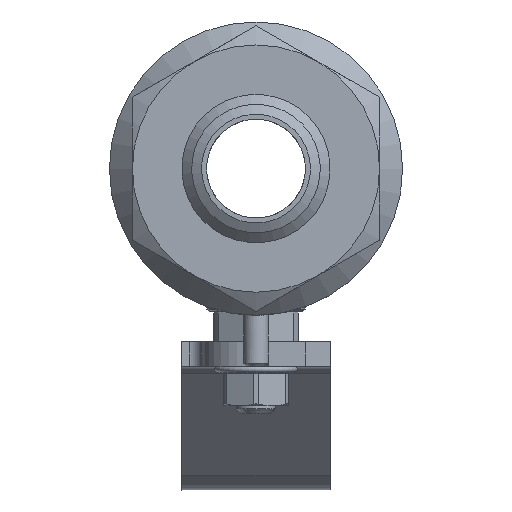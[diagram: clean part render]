
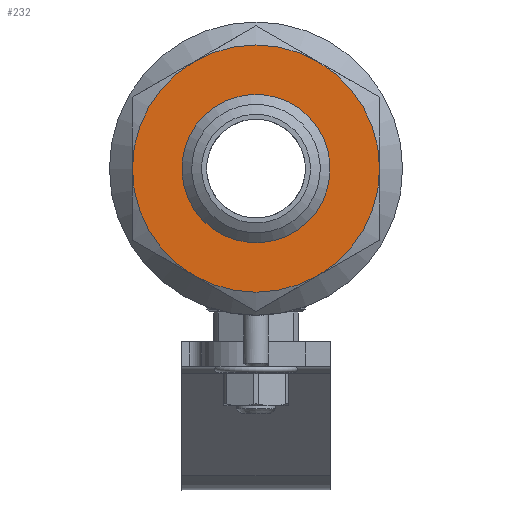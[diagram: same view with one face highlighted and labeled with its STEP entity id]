
A CAD part, left-side view. The second image highlights one B-rep face of the part: STEP entity #232.
In plain terms, the highlighted planar face has unit normal (-1, 0, 0).
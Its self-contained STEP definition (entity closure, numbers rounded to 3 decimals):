
#232=ADVANCED_FACE('',(#2179,#2181),#2183,.T.);
#2179=FACE_BOUND('',#2180,.T.);
#2180=EDGE_LOOP('',(#3575));
#2181=FACE_OUTER_BOUND('',#2182,.T.);
#2182=EDGE_LOOP('',(#3576,#3577,#3578,#3579,#3580,#3581));
#2183=PLANE('',#2184);
#2184=AXIS2_PLACEMENT_3D('',#2185,#2186,#2187);
#2185=CARTESIAN_POINT('',(-75.9,0.,0.));
#2186=DIRECTION('',(-1.,0.,0.));
#2187=DIRECTION('',(0.,0.866,0.5));
#3575=ORIENTED_EDGE('',*,*,#4800,.F.);
#3576=ORIENTED_EDGE('',*,*,#4814,.F.);
#3577=ORIENTED_EDGE('',*,*,#4815,.F.);
#3578=ORIENTED_EDGE('',*,*,#4816,.F.);
#3579=ORIENTED_EDGE('',*,*,#4817,.F.);
#3580=ORIENTED_EDGE('',*,*,#4818,.F.);
#3581=ORIENTED_EDGE('',*,*,#4819,.F.);
#4800=EDGE_CURVE('',#5487,#5487,#5488,.F.);
#4814=EDGE_CURVE('',#5513,#5514,#5515,.T.);
#4815=EDGE_CURVE('',#5516,#5513,#5517,.T.);
#4816=EDGE_CURVE('',#5518,#5516,#5519,.T.);
#4817=EDGE_CURVE('',#5520,#5518,#5521,.T.);
#4818=EDGE_CURVE('',#5522,#5520,#5523,.T.);
#4819=EDGE_CURVE('',#5514,#5522,#5524,.T.);
#5487=VERTEX_POINT('',#8706);
#5488=CIRCLE('',#8707,15.);
#5513=VERTEX_POINT('',#8765);
#5514=VERTEX_POINT('',#8766);
#5515=CIRCLE('',#8767,25.);
#5516=VERTEX_POINT('',#8771);
#5517=CIRCLE('',#8772,25.);
#5518=VERTEX_POINT('',#8776);
#5519=CIRCLE('',#8777,25.);
#5520=VERTEX_POINT('',#8781);
#5521=CIRCLE('',#8782,25.);
#5522=VERTEX_POINT('',#8786);
#5523=CIRCLE('',#8787,25.);
#5524=CIRCLE('',#8791,25.);
#8706=CARTESIAN_POINT('',(-75.9,1.061,14.962));
#8707=AXIS2_PLACEMENT_3D('',#8708,#8709,#8710);
#8708=CARTESIAN_POINT('',(-75.9,0.,0.));
#8709=DIRECTION('',(1.,0.,0.));
#8710=DIRECTION('',(0.,0.071,0.997));
#8765=CARTESIAN_POINT('',(-75.9,12.5,-21.651));
#8766=CARTESIAN_POINT('',(-75.9,25.,0.));
#8767=AXIS2_PLACEMENT_3D('',#8768,#8769,#8770);
#8768=CARTESIAN_POINT('',(-75.9,0.,0.));
#8769=DIRECTION('',(1.,0.,0.));
#8770=DIRECTION('',(0.,0.5,-0.866));
#8771=CARTESIAN_POINT('',(-75.9,-12.5,-21.651));
#8772=AXIS2_PLACEMENT_3D('',#8773,#8774,#8775);
#8773=CARTESIAN_POINT('',(-75.9,0.,0.));
#8774=DIRECTION('',(1.,0.,0.));
#8775=DIRECTION('',(0.,-0.5,-0.866));
#8776=CARTESIAN_POINT('',(-75.9,-25.,0.));
#8777=AXIS2_PLACEMENT_3D('',#8778,#8779,#8780);
#8778=CARTESIAN_POINT('',(-75.9,0.,0.));
#8779=DIRECTION('',(1.,0.,0.));
#8780=DIRECTION('',(0.,-1.,0.));
#8781=CARTESIAN_POINT('',(-75.9,-12.5,21.651));
#8782=AXIS2_PLACEMENT_3D('',#8783,#8784,#8785);
#8783=CARTESIAN_POINT('',(-75.9,0.,0.));
#8784=DIRECTION('',(1.,0.,0.));
#8785=DIRECTION('',(0.,-0.5,0.866));
#8786=CARTESIAN_POINT('',(-75.9,12.5,21.651));
#8787=AXIS2_PLACEMENT_3D('',#8788,#8789,#8790);
#8788=CARTESIAN_POINT('',(-75.9,0.,0.));
#8789=DIRECTION('',(1.,0.,0.));
#8790=DIRECTION('',(0.,0.5,0.866));
#8791=AXIS2_PLACEMENT_3D('',#8792,#8793,#8794);
#8792=CARTESIAN_POINT('',(-75.9,0.,0.));
#8793=DIRECTION('',(1.,0.,0.));
#8794=DIRECTION('',(0.,1.,0.));
